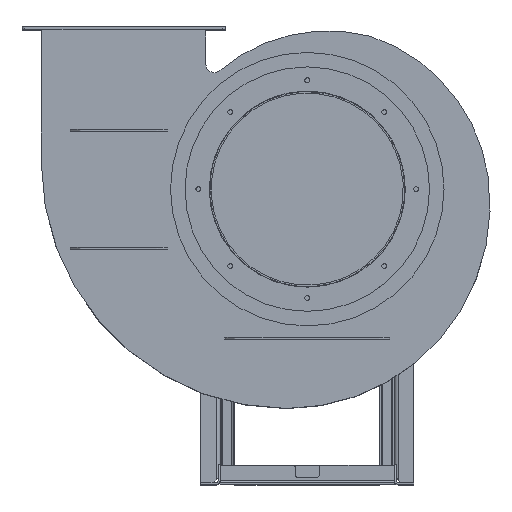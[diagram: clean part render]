
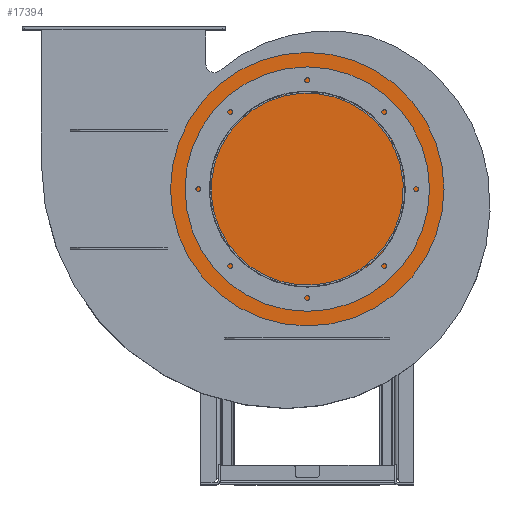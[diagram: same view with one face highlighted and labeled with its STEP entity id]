
A CAD part, top view. The second image highlights one B-rep face of the part: STEP entity #17394.
In plain terms, the highlighted planar face has unit normal (0, 0, 1).
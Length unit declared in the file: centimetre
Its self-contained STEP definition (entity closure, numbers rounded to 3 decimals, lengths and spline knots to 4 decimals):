
#282=PLANE('',#18125);
#585=CIRCLE('',#18117,20.15);
#587=CIRCLE('',#18121,19.85);
#589=CIRCLE('',#18126,28.25);
#754=FACE_BOUND('',#3161,.T.);
#2160=FACE_OUTER_BOUND('',#3160,.T.);
#3160=EDGE_LOOP('',(#15580));
#3161=EDGE_LOOP('',(#15581,#15582,#15583,#15584));
#4474=LINE('',#38376,#5785);
#4478=LINE('',#38387,#5789);
#5785=VECTOR('',#20680,0.3);
#5789=VECTOR('',#20692,0.3);
#8355=VERTEX_POINT('',#38366);
#8356=VERTEX_POINT('',#38367);
#8359=VERTEX_POINT('',#38375);
#8361=VERTEX_POINT('',#38381);
#8363=VERTEX_POINT('',#38391);
#10803=EDGE_CURVE('',#8355,#8356,#585,.T.);
#10807=EDGE_CURVE('',#8359,#8355,#4474,.T.);
#10810=EDGE_CURVE('',#8361,#8359,#587,.T.);
#10813=EDGE_CURVE('',#8356,#8361,#4478,.T.);
#10815=EDGE_CURVE('',#8363,#8363,#589,.T.);
#15580=ORIENTED_EDGE('',*,*,#10815,.T.);
#15581=ORIENTED_EDGE('',*,*,#10807,.T.);
#15582=ORIENTED_EDGE('',*,*,#10803,.T.);
#15583=ORIENTED_EDGE('',*,*,#10813,.T.);
#15584=ORIENTED_EDGE('',*,*,#10810,.T.);
#17394=ADVANCED_FACE('',(#2160,#754),#282,.T.);
#18117=AXIS2_PLACEMENT_3D('',#38368,#20672,#20673);
#18121=AXIS2_PLACEMENT_3D('',#38382,#20685,#20686);
#18125=AXIS2_PLACEMENT_3D('',#38390,#20696,#20697);
#18126=AXIS2_PLACEMENT_3D('',#38392,#20698,#20699);
#20672=DIRECTION('center_axis',(0.,0.,
-1.));
#20673=DIRECTION('ref_axis',(0.239,-0.971,0.));
#20680=DIRECTION('',(-0.243,0.97,0.));
#20685=DIRECTION('center_axis',(0.,0.,
1.));
#20686=DIRECTION('ref_axis',(-0.239,0.971,0.));
#20692=DIRECTION('',(0.243,-0.97,0.));
#20696=DIRECTION('center_axis',(0.,0.,
1.));
#20697=DIRECTION('ref_axis',(1.,0.,0.));
#20698=DIRECTION('center_axis',(0.,0.,
1.));
#20699=DIRECTION('ref_axis',(1.,0.,0.));
#38366=CARTESIAN_POINT('',(-400.0291,190.6704,29.2));
#38367=CARTESIAN_POINT('',(-400.2231,190.6217,29.2));
#38368=CARTESIAN_POINT('Origin',(-395.221,171.1024,29.2));
#38375=CARTESIAN_POINT('',(-399.956,190.3794,29.2));
#38376=CARTESIAN_POINT('',(-397.5766,180.8986,29.2));
#38381=CARTESIAN_POINT('',(-400.15,190.3307,29.2));
#38382=CARTESIAN_POINT('Origin',(-395.221,171.1024,29.2));
#38387=CARTESIAN_POINT('',(-397.734,180.7044,29.2));
#38390=CARTESIAN_POINT('Origin',(-395.221,171.1024,29.2));
#38391=CARTESIAN_POINT('',(-423.471,171.1024,29.2));
#38392=CARTESIAN_POINT('Origin',(-395.221,171.1024,29.2));
